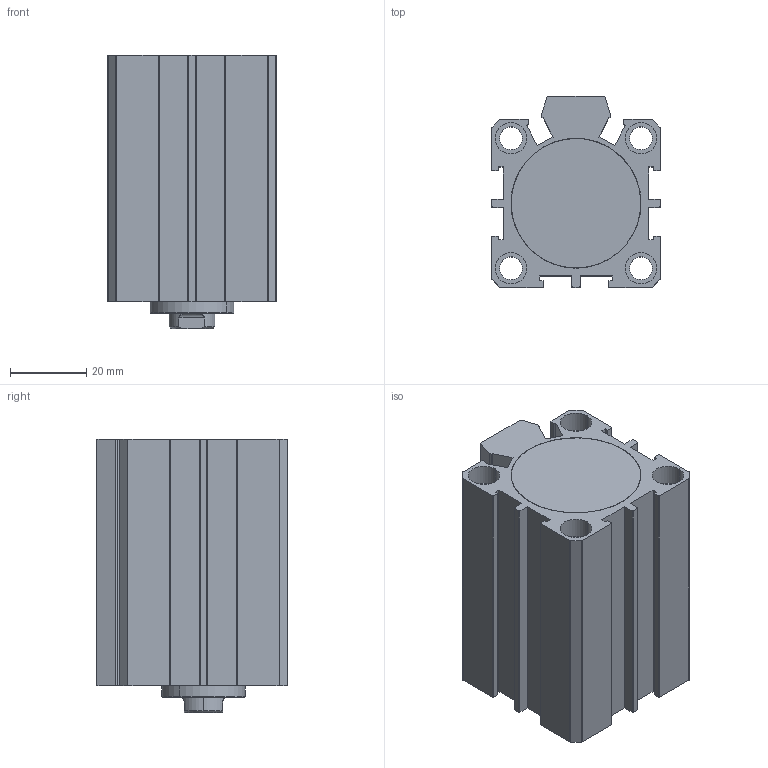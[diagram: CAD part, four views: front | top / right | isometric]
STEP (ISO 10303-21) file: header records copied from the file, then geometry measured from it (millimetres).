
FILE_DESCRIPTION (( 'STEP AP203' ), '1' );
FILE_NAME ('SDA-32X40CYLINDER.STEP', '2015-07-21T12:54:02', ( 'user' ), ( '' ), 'SwSTEP 2.0', 'SolidWorks 2013', '' );
FILE_SCHEMA (( 'CONFIG_CONTROL_DESIGN' ));
Length unit declared in the file: millimetre
Products named in the file (5): SDA 32X40 BORU; SDA 32 ARKA KAPAK; SDA 32 烰 KAPAK; SDA 32X40 M尳 VE TOP; SDA-32X40CYLINDER
Assembly tree (4 placements, depth 2):
  SDA-32X40CYLINDER
    SDA 32X40 BORU
    SDA 32 ARKA KAPAK
    SDA 32 烰 KAPAK
    SDA 32X40 M尳 VE TOP
Bounding box: 44 x 50 x 71.5 mm (x, y, z)
Volume: 78785 mm3; surface area: 44549.1 mm2
Topology: 6 solids, 7 shells, 259 faces, 641 edges, 420 vertices
Faces by surface type: cylinder 113, plane 108, cone 28, bspline 10
Entity records: 9101 total; most frequent: CARTESIAN_POINT 2256, DIRECTION 1380, ORIENTED_EDGE 1282, EDGE_CURVE 641, AXIS2_PLACEMENT_3D 522, VERTEX_POINT 420, LINE 336, VECTOR 336
